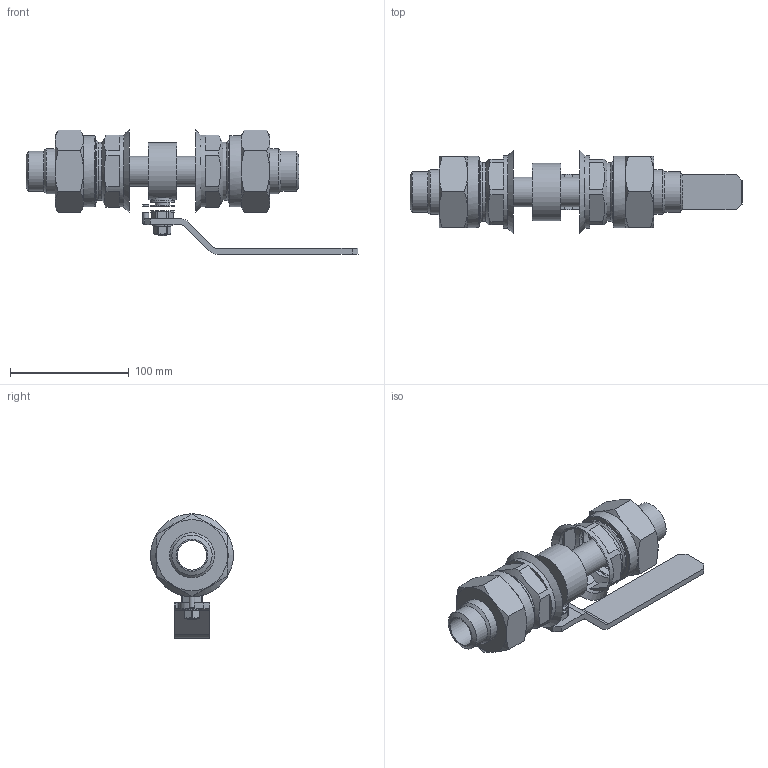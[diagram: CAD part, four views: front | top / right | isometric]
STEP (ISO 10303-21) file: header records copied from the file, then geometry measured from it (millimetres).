
FILE_DESCRIPTION(('STEP AP203'), '1');
FILE_NAME('ZARDP 025.160.30.P.stp', '2013-12-06T05:57:17', ('User'), ('Computer'), 'ASCON STEP Converter 1.3', 'Kompas 3D', '');
FILE_SCHEMA(('CONFIG_CONTROL_DESIGN','SUPPORT_RESOURCE_SCHEMA'));
Length unit declared in the file: millimetre
Products named in the file (1): 16
Bounding box: 280 x 70 x 105 mm (x, y, z)
Surface area: 101521.5 mm2
Topology: 3 solids, 4 shells, 250 faces, 577 edges, 353 vertices
Faces by surface type: plane 129, cone 63, cylinder 53, torus 3, bspline 2
Full cylindrical faces by diameter (mm): 5 x2, 8 x2, 10.7 x1, 10.917 x1, 12 x1, 12.1 x1, 19.8 x1, 20 x3, 25 x4, 34 x2, 38 x2, 41.2 x2, 48.4 x1, 49 x2, 50 x2, 52 x2, 60 x2, 61 x2, 70 x1
Entity records: 10466 total; most frequent: CARTESIAN_POINT 4698, DIRECTION 1221, ORIENTED_EDGE 1152, EDGE_CURVE 577, AXIS2_PLACEMENT_3D 482, VERTEX_POINT 353, EDGE_LOOP 279, LINE 257
